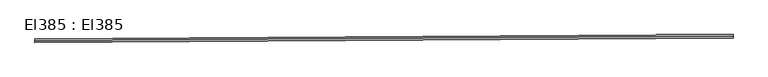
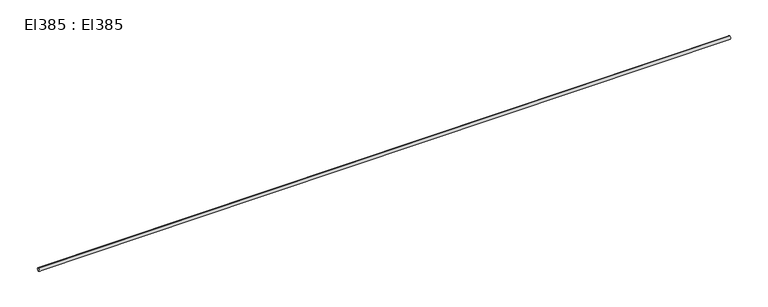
"""IFC4 building model written with IfcOpenShell, lengths in millimetres: cable carrier segment geometry, El385 : El385."""

from ifc_helpers import new_model, si_unit, point, frame, frame_2d, origin, place, context, project, spatial, circle_curve, trimmed, segment, composite_curve, outline, extrude, source, transform, mapped, element, save


def el385_el385_f98732e3(model_context):
    return source(origin(), model_context, "Body", "SweptSolid", [
        extrude(outline(composite_curve([segment(trimmed(circle_curve(frame_2d((0.0, -9.5)), 9.5), [point((0.0, -19.0))], [point((0.0, 0.0))], False, "CARTESIAN"), True, "CONTINUOUS"), segment(trimmed(circle_curve(frame_2d((0.0, -9.5)), 9.5), [point((0.0, 0.0))], [point((0.0, -19.0))], False, "CARTESIAN"), True, "CONTINUOUS")], self_intersect=False)), frame((11029.3, 21391.8026, 9.5), z_axis=(0.9999795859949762, 0.006389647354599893, 0.0), x_axis=(-0.006389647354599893, 0.9999795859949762, 0.0)), (0.0, 0.0, 1.0), 4193.48),
    ])


if __name__ == "__main__":
    model = new_model("IFC4")
    model_context = context("Model", 3, world=origin())
    ifc_project = project(units=[si_unit("LENGTHUNIT", "METRE", prefix="MILLI")], contexts=[model_context])
    site = spatial("IfcSite", under=ifc_project)
    building = spatial("IfcBuilding", under=site)
    placement = place(None, origin())
    el385_el385_shape = el385_el385_f98732e3(model_context)
    element("IfcCableCarrierSegment", 1, ObjectType="El385 : El385", at=placement, inside=building, context=model_context, shape_type="MappedRepresentation", body=[
        mapped(el385_el385_shape, transform((0.0, 0.0, 0.0), x_axis=(1.0, 0.0, 0.0), y_axis=(0.0, 1.0, 0.0), z_axis=(0.0, 0.0, 1.0))),
    ])
    save(model, "model.ifc")
